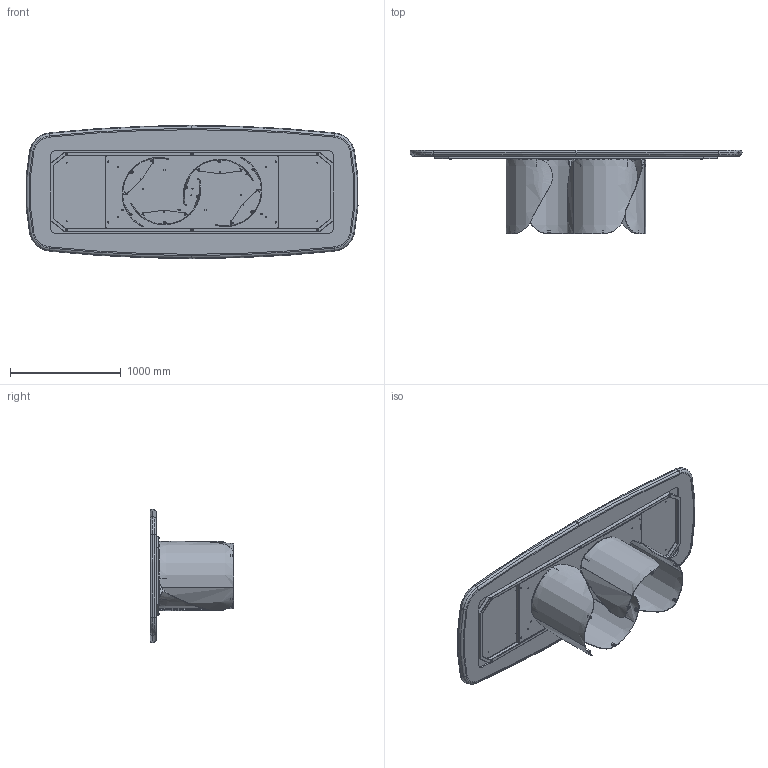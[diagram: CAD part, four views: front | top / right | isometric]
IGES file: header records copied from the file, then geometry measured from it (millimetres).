
Start section: SolidWorks IGES file using analytic representation for surfaces
Global section: file name: Y:\eforma\TECNICO\SOLIDWORKS\E-FORMA\1-TAVOLI\ONDA\08 modelli 3D web\ONxxx-00-TAVOLO ONDA BASAMENTO DOPPIO.IGS; native system: SolidWorks 2022; preprocessor: SolidWorks 2022; author: eforma.tech; date: 240801.110652; units: millimetre
Bounding box: 2991.72 x 752 x 1200 mm (x, y, z)
Volume: 163378479.4 mm3; surface area: 22283918.7 mm2
Topology: 80 solids, 80 shells, 2255 faces, 5178 edges, 3095 vertices
Faces by surface type: revolution 1379, plane 796, bspline 80
